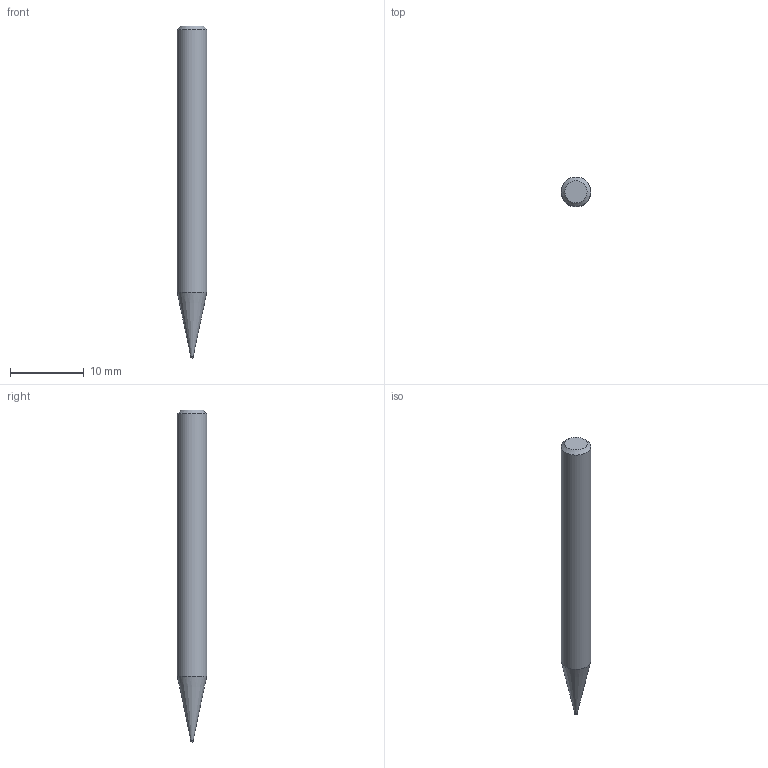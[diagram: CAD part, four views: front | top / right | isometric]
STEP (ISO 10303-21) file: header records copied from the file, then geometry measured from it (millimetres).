
FILE_DESCRIPTION((''),'2;1');
FILE_NAME('C:\Users\nsx150\AppData\Local\Temp\Mastercam 2021\ARV7HD45SN\TEMP.step','2023-06-13T16:32:17',(''),(''),'STEP Write','Mastercam 2021 ... CNC Software, Inc.','');
FILE_SCHEMA(('AUTOMOTIVE_DESIGN'));
Length unit declared in the file: millimetre
Products named in the file (1): None
Bounding box: 4 x 4 x 45 mm (x, y, z)
Volume: 491.6 mm3; surface area: 522.6 mm2
Topology: 2 solids, 2 shells, 8 faces, 12 edges, 7 vertices
Faces by surface type: plane 3, cylinder 2, cone 2, sphere 1
Full cylindrical faces by diameter (mm): 0.3 x1, 4 x1
Entity records: 190 total; most frequent: DIRECTION 32, CARTESIAN_POINT 22, AXIS2_PLACEMENT_3D 16, ORIENTED_EDGE 12, EDGE_LOOP 12, STYLED_ITEM 11, ADVANCED_FACE 8, VERTEX_POINT 6
